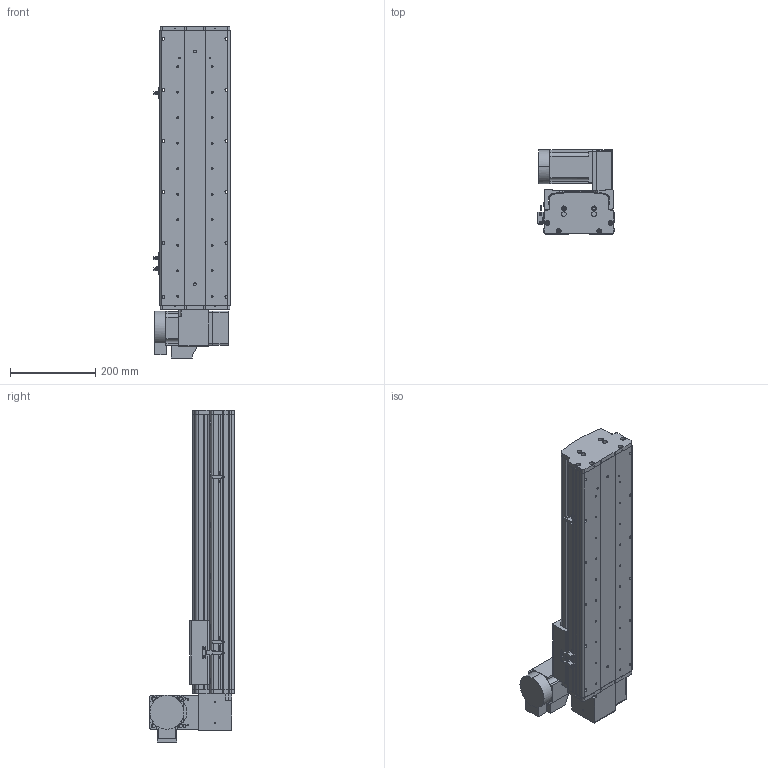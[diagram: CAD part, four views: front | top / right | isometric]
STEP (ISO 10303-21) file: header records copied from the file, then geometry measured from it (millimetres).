
FILE_DESCRIPTION (( 'STEP AP214' ), '1' );
FILE_NAME ('KSD165B-S400-MRU-CM .STEP', '2017-10-17T02:01:46', ( '微软用户' ), ( '微软中国' ), 'SwSTEP 2.0', 'SolidWorks 2014', '' );
FILE_SCHEMA (( 'AUTOMOTIVE_DESIGN' ));
Length unit declared in the file: millimetre
Products named in the file (17): KSD165模组-同步带防尘盖1-400行程-最新版; KSD165模组同步带底板-400行程-最新; 拸秶雄ん750W侜督萇儂; 165宽马达安装板同步带右; U倰嫖萇假蚾璃; U倰嫖萇EEㄜSX672; 覜茼え68遵圉猾敕; KSD165模组-同步带-防撞垫2; KSD165模组同步带-防撞垫1; KSD165耀郪-ヶ傷啣1-肮祭湍; KSD165模组-后端板1-同步带; KSD165模组-同步带滑动座-最新版; KSD165B-S400-MRU-CM ; 130宽模组马达安装板连板上下折丝杆同步带; 130宽模组保护罩上下左右折-同步带; HTPA26S5M250-A-H8 750W萇儂蚚; HTPA26S5M250-A-H8 400W萇儂蚚 
Assembly tree (20 placements, depth 2):
  KSD165B-S400-MRU-CM 
    KSD165模组-同步带滑动座-最新版
    KSD165模组-后端板1-同步带
    KSD165耀郪-ヶ傷啣1-肮祭湍
    KSD165模组同步带-防撞垫1
    KSD165模组-同步带-防撞垫2
    覜茼え68遵圉猾敕
    U倰嫖萇EEㄜSX672  x3
    U倰嫖萇假蚾璃  x3
    165宽马达安装板同步带右
    拸秶雄ん750W侜督萇儂
    KSD165模组同步带底板-400行程-最新
    KSD165模组-同步带防尘盖1-400行程-最新版
    HTPA26S5M250-A-H8 400W萇儂蚚 
    HTPA26S5M250-A-H8 750W萇儂蚚
    130宽模组保护罩上下左右折-同步带
    130宽模组马达安装板连板上下折丝杆同步带
Bounding box: 178.7 x 198 x 780.5 mm (x, y, z)
Volume: 5208851.7 mm3; surface area: 1203214.4 mm2
Topology: 21 solids, 21 shells, 1885 faces, 5310 edges, 3464 vertices
Faces by surface type: cylinder 1195, plane 578, cone 112
Entity records: 60492 total; most frequent: CARTESIAN_POINT 12400, DIRECTION 10002, ORIENTED_EDGE 9280, EDGE_CURVE 4640, AXIS2_PLACEMENT_3D 3912, VERTEX_POINT 3056, CIRCLE 2224, VECTOR 2178
